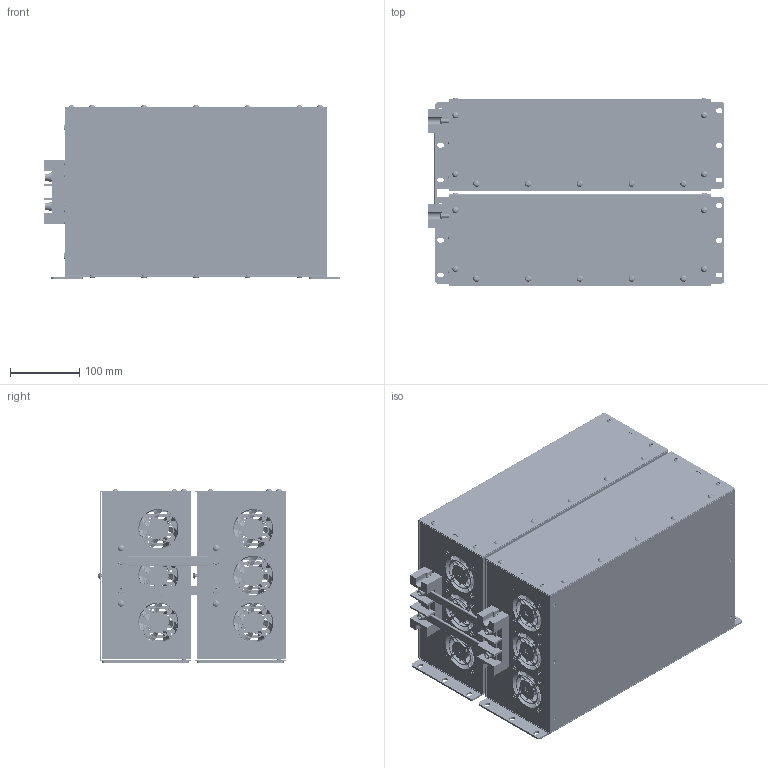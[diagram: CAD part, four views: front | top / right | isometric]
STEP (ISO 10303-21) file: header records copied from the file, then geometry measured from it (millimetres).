
FILE_DESCRIPTION(/* description */ (''),/* implementation_level */ '2;1');
FILE_NAME(/* name */ 'G:\016_배터리 버스바 도면\VX3(V)\[3D 도면]\[IGS, STEP]\VX3-BUSBAR-V.stp',/* time_stamp */ '2023-11-07T15:57:30+09:00',/* author */ ('jjang'),/* organization */ (''),/* preprocessor_version */ 'ST-DEVELOPER v18.1',/* originating_system */ 'Autodesk Inventor 2021',/* authorisation */ '');
FILE_SCHEMA (('AUTOMOTIVE_DESIGN { 1 0 10303 214 3 1 1 }'));
Products named in the file (1): VX3_V-BUSBAR_2023.03_Shrinkwrap_2
Bounding box: 428 x 271.59 x 250.54 mm (x, y, z)
Volume: 1306815.3 mm3; surface area: 1623314.2 mm2
Topology: 1 solids, 1 shells, 5958 faces, 16178 edges, 10492 vertices
Faces by surface type: plane 3154, cylinder 1760, bspline 752, torus 172, cone 78, sphere 42
Full cylindrical faces by diameter (mm): 0.9 x12, 3.6 x16, 4 x40, 4.3 x24, 4.5 x12, 5 x24, 5.3 x40, 5.5 x12, 6.2 x2, 8.4 x24, 9 x12, 9.2 x4, 10 x10, 13 x4, 25.4 x6, 55.4 x6
Entity records: 229681 total; most frequent: CARTESIAN_POINT 75747, ORIENTED_EDGE 32296, DIRECTION 30170, EDGE_CURVE 16148, VERTEX_POINT 10492, AXIS2_PLACEMENT_3D 10463, LINE 9244, VECTOR 9244
